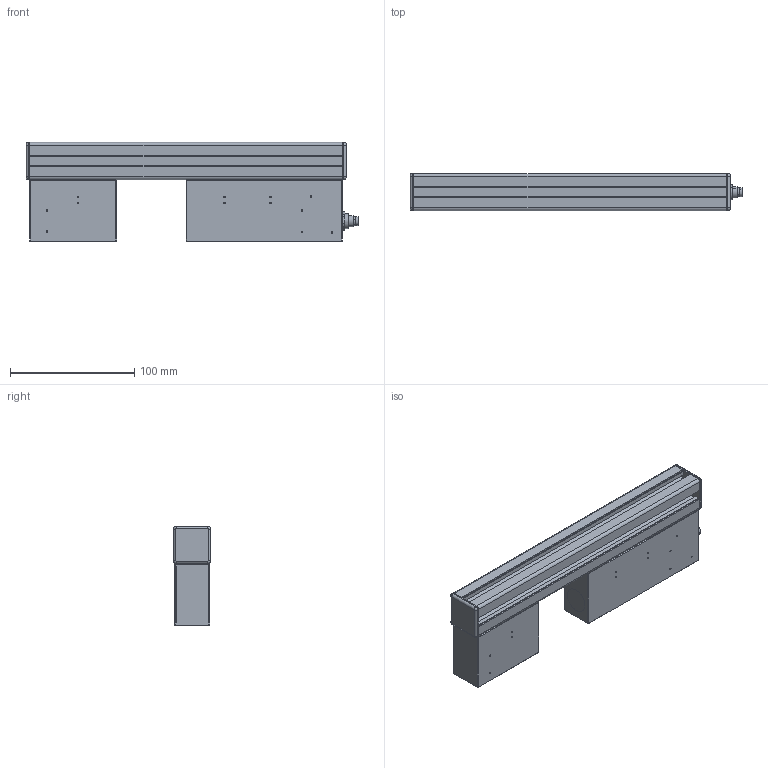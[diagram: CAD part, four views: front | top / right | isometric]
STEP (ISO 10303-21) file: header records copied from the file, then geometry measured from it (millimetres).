
FILE_DESCRIPTION (( 'STEP AP203' ), '1' );
FILE_NAME ('ÐÔ 656-10.STEP', '2013-07-18T07:30:36', ( 'DNA7 X86' ), ( 'DNA Project' ), 'SwSTEP 2.0', 'SolidWorks 2012', '' );
FILE_SCHEMA (( 'CONFIG_CONTROL_DESIGN' ));
Length unit declared in the file: millimetre
Products named in the file (11): 俶 656-10; Âèíò_Ì2õ4; Ãàéêà Raz_09_0427_80_08; Ñòåêëî êðóãëîå; ÐÔ 656.10.004 Êðûøêà èçëó÷àòåëÿ; ÐÔ 656.10.003 Êðûøêà ïðèåìíèêà; Çàãëóøêà 30õ30; Ïðîôèëü 30x30 656-10; Raz_09_0427_80_08; ÐÔ 656.10.001 Êîðïóñ ïðèåìíèêà 10; ÐÔ 656.10.002 Êîðïóñ èçëó÷àòåëÿ 10
Assembly tree (21 placements, depth 2):
  俶 656-10
    ÐÔ 656.10.002 Êîðïóñ èçëó÷àòåëÿ 10
    ÐÔ 656.10.001 Êîðïóñ ïðèåìíèêà 10
    Raz_09_0427_80_08
    Ïðîôèëü 30x30 656-10
    Çàãëóøêà 30õ30  x2
    ÐÔ 656.10.003 Êðûøêà ïðèåìíèêà
    ÐÔ 656.10.004 Êðûøêà èçëó÷àòåëÿ
    Ñòåêëî êðóãëîå  x2
    Ãàéêà Raz_09_0427_80_08
    Âèíò_Ì2õ4  x10
Bounding box: 267.5 x 30 x 80 mm (x, y, z)
Volume: 167086.3 mm3; surface area: 173551.8 mm2
Topology: 21 solids, 21 shells, 892 faces, 2280 edges, 1444 vertices
Faces by surface type: plane 462, cylinder 282, cone 140, torus 8
Entity records: 21461 total; most frequent: CARTESIAN_POINT 3741, DIRECTION 3506, ORIENTED_EDGE 3312, EDGE_CURVE 1656, AXIS2_PLACEMENT_3D 1227, VERTEX_POINT 1056, LINE 1052, VECTOR 1052
